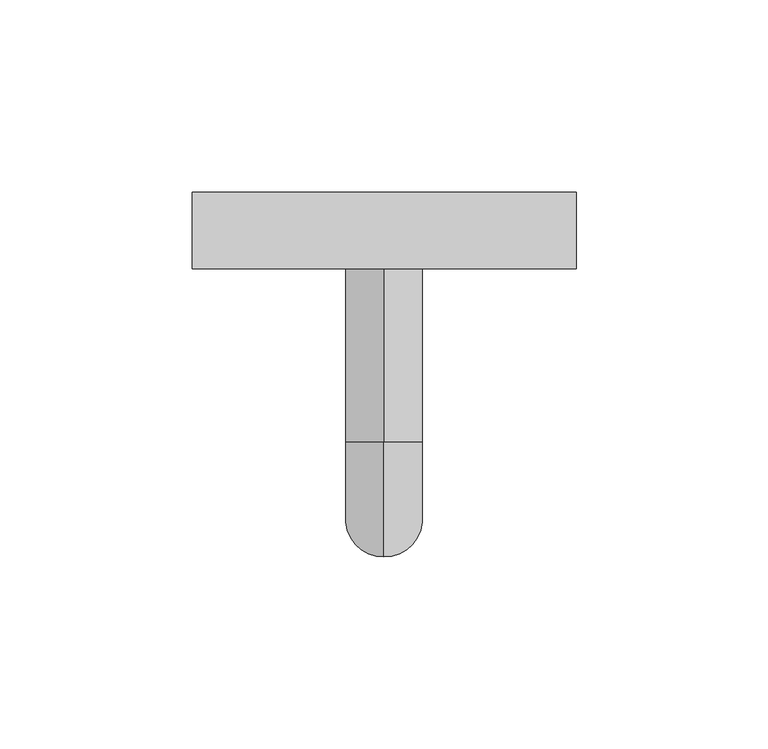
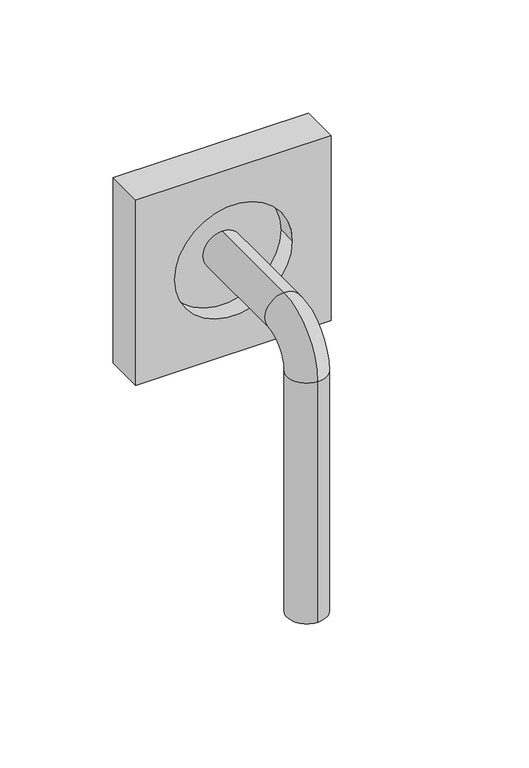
"""IFC4 building model written with IfcOpenShell, lengths in millimetres: proxy geometry, ZYR_08.05 Tirador Alarma : 01 Tirador Alarma."""

from ifc_helpers import new_model, si_unit, point, frame, origin, place, context, project, spatial, polyline, circle_curve, ellipse_curve, trimmed, source, transform, mapped, element, save
from ifc_brep_helpers import plane_surface, cylinder_surface, revolved_surface, advanced_brep


def communication_devices_2ad478d1(model_context):
    return source(origin(), model_context, "Body", "AdvancedBrep", [
        advanced_brep(
        [(50.0, -20.0, 50.0), (-50.0, -20.0, 50.0), (-50.0, -20.0, -50.0), (50.0, -20.0, -50.0), (30.0120048, -20.0, 0.0), (-30.0120048, -20.0, 0.0), (50.0, 0.0, 50.0), (50.0, 0.0, -50.0), (-50.0, 0.0, -50.0), (-50.0, 0.0, 50.0), (-30.0120048, -10.0, 0.0), (30.0120048, -10.0, 0.0)],
        [
            (0, 1),
            (1, 2),
            (2, 3),
            (3, 0),
            (4, 5, circle_curve(frame((0.0, -20.0, 0.0), z_axis=(0.0, 1.0, 0.0), x_axis=(1.0, 0.0, 0.0)), 30.0120048)),
            (5, 4, circle_curve(frame((0.0, -20.0, 0.0), z_axis=(0.0, 1.0, 0.0), x_axis=(1.0, 0.0, 0.0)), 30.0120048)),
            (6, 7),
            (7, 8),
            (8, 9),
            (9, 6),
            (0, 6),
            (9, 1),
            (8, 2),
            (7, 3),
            (10, 11, circle_curve(frame((0.0, -10.0, 0.0), z_axis=(0.0, -1.0, 0.0), x_axis=(1.0, 0.0, 0.0)), 30.0120048)),
            (11, 10, circle_curve(frame((0.0, -10.0, 0.0), z_axis=(0.0, -1.0, 0.0), x_axis=(1.0, 0.0, 0.0)), 30.0120048)),
            (10, 5),
            (4, 11),
        ],
        [
            plane_surface(frame((-50.0, -20.0, 50.0), z_axis=(0.0, -1.0, 0.0), x_axis=(-1.0, 0.0, 0.0))),
            plane_surface(frame((-50.0, 0.0, 50.0), z_axis=(0.0, 1.0, 0.0), x_axis=(1.0, 0.0, 0.0))),
            plane_surface(frame((50.0, -20.0, 50.0), z_axis=(0.0, 0.0, 1.0), x_axis=(0.0, 1.0, 0.0))),
            plane_surface(frame((-50.0, -20.0, 50.0), z_axis=(-1.0, 0.0, 0.0), x_axis=(0.0, 1.0, 0.0))),
            plane_surface(frame((-50.0, -20.0, -50.0), z_axis=(0.0, 0.0, -1.0), x_axis=(0.0, 1.0, 0.0))),
            plane_surface(frame((50.0, -20.0, -50.0), z_axis=(1.0, 0.0, 0.0), x_axis=(0.0, 1.0, 0.0))),
            plane_surface(frame((30.0120048, -10.0, 0.0), z_axis=(0.0, -1.0, 0.0), x_axis=(0.0, 0.0, -1.0))),
            revolved_surface(polyline([(30.0120048, -20.0, 0.0), (30.0120048, -10.0, 0.0)]), (0.0, -10.0, 0.0), (0.0, -1.0, 0.0)),
        ],
        [
            (0, [[1, 2, 3, 4], [5, 6]]),
            (1, [[7, 8, 9, 10]]),
            (2, [[-1, 11, -10, 12]]),
            (3, [[-2, -12, -9, 13]]),
            (4, [[-3, -13, -8, 14]]),
            (5, [[-4, -14, -7, -11]]),
            (6, [[15, 16]]),
            (7, [[-15, 17, -5, 18]]),
            (7, [[-16, -18, -6, -17]]),
        ],
    ),
        advanced_brep(
        [(0.0, -10.0, 10.0040016), (0.0, -10.0, -10.0040016), (0.0, -65.0, 10.0040016), (0.0, -65.0, -10.0040016), (0.0, -74.9959984, -20.0), (0.0, -95.0040016, -20.0), (0.0, -95.0040016, -150.0), (0.0, -74.9959984, -150.0)],
        [
            (0, 1, circle_curve(frame((0.0, -10.0, 0.0), z_axis=(0.0, 1.0, 0.0), x_axis=(0.0, 0.0, -1.0)), 10.0040016)),
            (1, 0, circle_curve(frame((0.0, -10.0, 0.0), z_axis=(0.0, 1.0, 0.0), x_axis=(0.0, 0.0, -1.0)), 10.0040016)),
            (0, 2),
            (2, 3, circle_curve(frame((0.0, -65.0, 0.0), z_axis=(0.0, 1.0, 0.0), x_axis=(0.0, 0.0, -1.0)), 10.0040016)),
            (3, 1),
            (3, 2, circle_curve(frame((0.0, -65.0, 0.0), z_axis=(0.0, 1.0, 0.0), x_axis=(0.0, 0.0, -1.0)), 10.0040016)),
            (4, 3, circle_curve(frame((0.0, -65.0, -20.0), z_axis=(-1.0, 0.0, 0.0), x_axis=(0.0, 0.0, 1.0)), 9.9959984)),
            (2, 5, circle_curve(frame((0.0, -65.0, -20.0), z_axis=(1.0, 0.0, 0.0), x_axis=(0.0, 0.0, 1.0)), 30.0040016)),
            (5, 4, circle_curve(frame((0.0, -85.0, -20.0), z_axis=(0.0, 0.0, 1.0), x_axis=(0.0, 1.0, 0.0)), 10.0040016)),
            (4, 5, circle_curve(frame((0.0, -85.0, -20.0), z_axis=(0.0, 0.0, 1.0), x_axis=(0.0, 1.0, 0.0)), 10.0040016)),
            (6, 7, circle_curve(frame((0.0, -85.0, -150.0), z_axis=(0.0, 0.0, -1.0), x_axis=(0.0, 1.0, 0.0)), 10.0040016)),
            (7, 6, circle_curve(frame((0.0, -85.0, -150.0), z_axis=(0.0, 0.0, -1.0), x_axis=(0.0, 1.0, 0.0)), 10.0040016)),
            (5, 6),
            (7, 4),
        ],
        [
            plane_surface(frame((0.0, -10.0, 0.0), z_axis=(0.0, 1.0, 0.0), x_axis=(1.0, 0.0, 0.0))),
            cylinder_surface(frame((0.0, -10.0, 0.0), z_axis=(0.0, 1.0, 0.0), x_axis=(0.0, 0.0, -1.0)), 10.0040016),
            revolved_surface(trimmed(ellipse_curve(frame((0.0, -65.0, 0.0), z_axis=(0.0, 1.0, 0.0), x_axis=(0.0, 0.0, -1.0)), 10.0040016, 10.0040016), [point((0.0, -65.0, 10.0040016))], [point((0.0, -65.0, -10.0040016))], True, "CARTESIAN"), (0.0, -65.0, -20.0), (1.0, 0.0, 0.0)),
            revolved_surface(trimmed(ellipse_curve(frame((0.0, -65.0, 0.0), z_axis=(0.0, 1.0, 0.0), x_axis=(0.0, 0.0, -1.0)), 10.0040016, 10.0040016), [point((0.0, -65.0, -10.0040016))], [point((0.0, -65.0, 10.0040016))], True, "CARTESIAN"), (0.0, -65.0, -20.0), (1.0, 0.0, 0.0)),
            plane_surface(frame((0.0, -85.0, -150.0), z_axis=(0.0, 0.0, -1.0), x_axis=(1.0, 0.0, 0.0))),
            cylinder_surface(frame((0.0, -85.0, -20.0), z_axis=(0.0, 0.0, 1.0), x_axis=(0.0, 1.0, 0.0)), 10.0040016),
        ],
        [
            (0, [[1, 2]]),
            (1, [[-1, 3, 4, 5]]),
            (1, [[-2, -5, 6, -3]]),
            (2, [[7, -4, 8, 9]]),
            (3, [[-8, -6, -7, 10]]),
            (4, [[11, 12]]),
            (5, [[-9, 13, -12, 14]]),
            (5, [[-10, -14, -11, -13]]),
        ],
    ),
    ])


if __name__ == "__main__":
    model = new_model("IFC4")
    model_context = context("Model", 3, world=origin())
    ifc_project = project(units=[si_unit("LENGTHUNIT", "METRE", prefix="MILLI")], contexts=[model_context])
    site = spatial("IfcSite", under=ifc_project)
    building = spatial("IfcBuilding", under=site)
    placement = place(None, origin())
    communication_devices_shape = communication_devices_2ad478d1(model_context)
    element("IfcBuildingElementProxy", 1, Name="ZYR_08.05 Tirador Alarma : 01 Tirador Alarma", ObjectType="ZYR_08.05 Tirador Alarma : 01 Tirador Alarma", at=placement, inside=building, context=model_context, shape_type="MappedRepresentation", body=[
        mapped(communication_devices_shape, transform((0.0, 0.0, 0.0), x_axis=(1.0, 0.0, 0.0), y_axis=(0.0, 1.0, 0.0), z_axis=(0.0, 0.0, 1.0))),
    ])
    save(model, "model.ifc")
